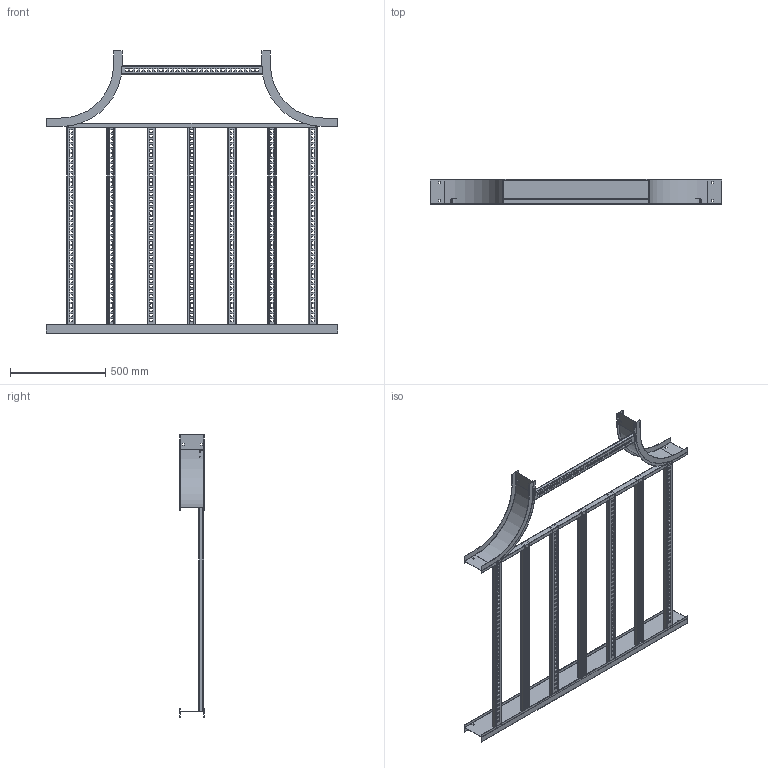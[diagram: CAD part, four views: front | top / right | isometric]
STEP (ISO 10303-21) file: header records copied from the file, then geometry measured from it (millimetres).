
FILE_DESCRIPTION((''),'2;1');
FILE_NAME('AHF54230LRT12_ASM','2010-02-05T',('erouzier'),(''),'PRO/ENGINEER BY PARAMETRIC TECHNOLOGY CORPORATION, 2008510','PRO/ENGINEER BY PARAMETRIC TECHNOLOGY CORPORATION, 2008510','');
FILE_SCHEMA(('CONFIG_CONTROL_DESIGN'));
Length unit declared in the file: inch
Products named in the file (12): CDS001811-5-90-12-I; CDS013846-5-60; CDS000495_GEN_AF7; CDS002159L42-P_AF8; CDS002159L42-P_AF9; CDS002159L42-P_AF10; CDS002159L42-P_AF11; CDS002159L42-P_AF12; CDS002159L42-P_AF13; CDS002159L42-P_AF14; CDS002159L30-P_AF1; AHF54230LRT12_ASM
Assembly tree (12 placements, depth 2):
  AHF54230LRT12_ASM
    CDS001811-5-90-12-I  x2
    CDS013846-5-60
    CDS000495_GEN_AF7
    CDS002159L42-P_AF8
    CDS002159L42-P_AF9
    CDS002159L42-P_AF10
    CDS002159L42-P_AF11
    CDS002159L42-P_AF12
    CDS002159L42-P_AF13
    CDS002159L42-P_AF14
    CDS002159L30-P_AF1
Bounding box: 1528.06 x 129.54 x 1480.44 mm (x, y, z)
Volume: 2509789.4 mm3; surface area: 3194873.2 mm2
Topology: 12 solids, 12 shells, 2828 faces, 8412 edges, 5608 vertices
Faces by surface type: plane 1496, cylinder 1332
Entity records: 95656 total; most frequent: CARTESIAN_POINT 16630, ORIENTED_EDGE 16584, DIRECTION 16564, EDGE_CURVE 8292, VECTOR 5640, LINE 5640, VERTEX_POINT 5528, AXIS2_PLACEMENT_3D 5462
